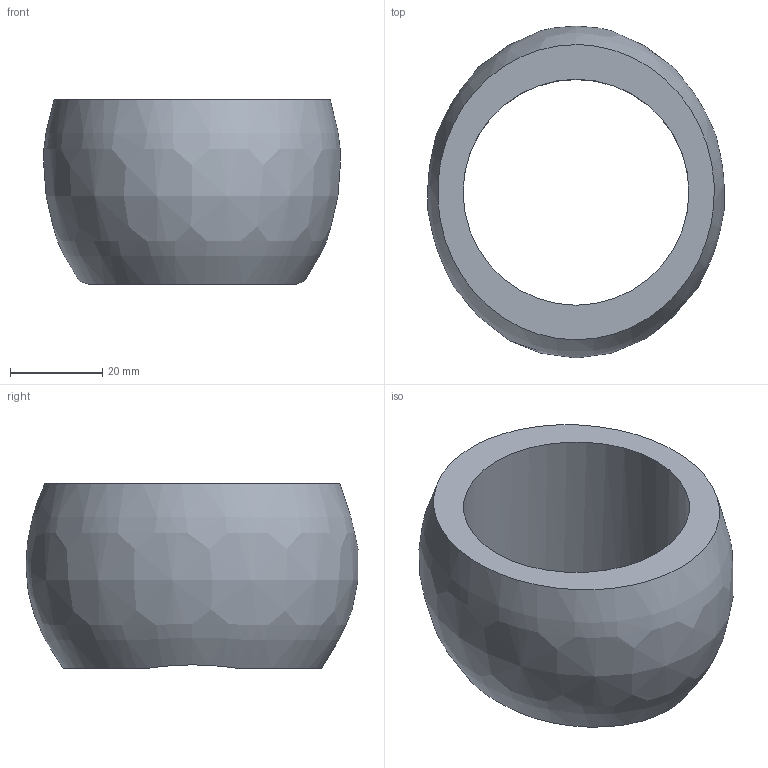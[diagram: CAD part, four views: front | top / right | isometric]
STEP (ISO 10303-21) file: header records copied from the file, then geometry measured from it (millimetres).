
FILE_DESCRIPTION(('Open CASCADE Model'),'2;1');
FILE_NAME('Q4-205','2026-10-05T14:37:43',('Author'),('Open CASCADE'), 'Open CASCADE STEP processor 8.0','build123d','Unknown');
FILE_SCHEMA(('AUTOMOTIVE_DESIGN { 1 0 10303 214 1 1 1 1 }'));
Length unit declared in the file: millimetre
Products named in the file (1): Q4-205
Bounding box: 64.3 x 72.01 x 40 mm (x, y, z)
Volume: 54786.9 mm3; surface area: 15993 mm2
Topology: 1 solids, 1 shells, 5 faces, 12 edges, 8 vertices
Faces by surface type: plane 3, bspline 1, cylinder 1
Full cylindrical faces by diameter (mm): 49 x1
Entity records: 546 total; most frequent: CARTESIAN_POINT 325, DIRECTION 28, ORIENTED_EDGE 24, PCURVE 24, DEFINITIONAL_REPRESENTATION 24, B_SPLINE_CURVE_WITH_KNOTS 18, EDGE_CURVE 12, LINE 12
